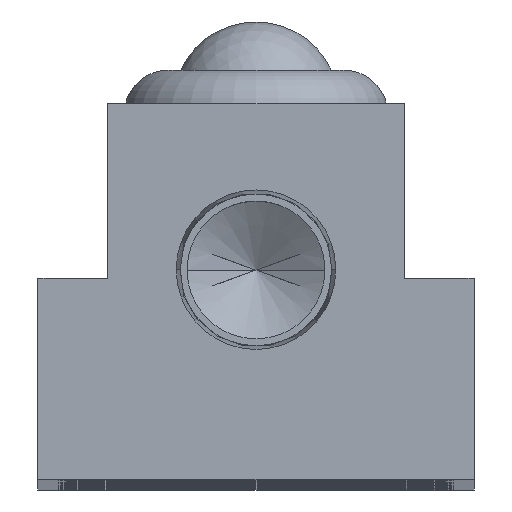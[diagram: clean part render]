
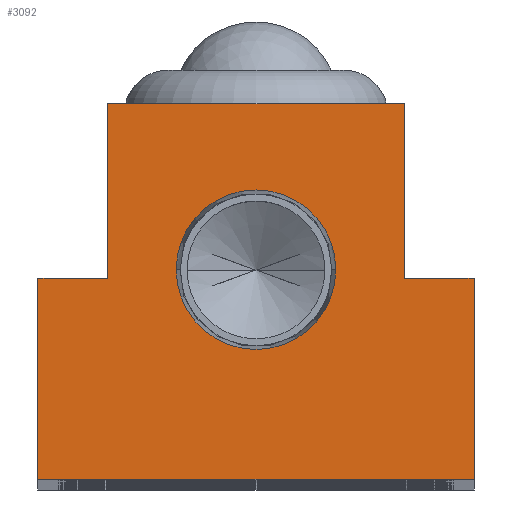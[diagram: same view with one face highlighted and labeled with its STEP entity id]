
A CAD part, top view. The second image highlights one B-rep face of the part: STEP entity #3092.
In plain terms, the highlighted planar face has unit normal (0, 0, 1).
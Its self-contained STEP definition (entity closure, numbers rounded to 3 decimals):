
#113 = CARTESIAN_POINT ( 'NONE',  ( -8.5, 21.5, 0. ) ) ;
#162 = EDGE_CURVE ( 'NONE', #9913, #428, #1157, .T. ) ;
#270 = ORIENTED_EDGE ( 'NONE', *, *, #1181, .T. ) ;
#352 = LINE ( 'NONE', #11174, #5004 ) ;
#428 = VERTEX_POINT ( 'NONE', #7573 ) ;
#656 = DIRECTION ( 'NONE',  ( 0., 1., 0. ) ) ;
#724 = ORIENTED_EDGE ( 'NONE', *, *, #4027, .T. ) ;
#726 = VECTOR ( 'NONE', #5031, 1000. ) ;
#921 = DIRECTION ( 'NONE',  ( 0., 0., 1. ) ) ;
#1157 = LINE ( 'NONE', #11801, #3349 ) ;
#1181 = EDGE_CURVE ( 'NONE', #10514, #4811, #8153, .T. ) ;
#1210 = CARTESIAN_POINT ( 'NONE',  ( -12.5, 0., 0. ) ) ;
#1223 = CARTESIAN_POINT ( 'NONE',  ( 8.5, 11.5, 0. ) ) ;
#1330 = ORIENTED_EDGE ( 'NONE', *, *, #11920, .T. ) ;
#1516 = VERTEX_POINT ( 'NONE', #10358 ) ;
#1525 = LINE ( 'NONE', #3584, #11735 ) ;
#1872 = CARTESIAN_POINT ( 'NONE',  ( 12.5, 0., 0. ) ) ;
#1910 = CIRCLE ( 'NONE', #5880, 4.574 ) ;
#1984 = ORIENTED_EDGE ( 'NONE', *, *, #5887, .T. ) ;
#2116 = FACE_BOUND ( 'NONE', #9134, .T. ) ;
#2319 = CARTESIAN_POINT ( 'NONE',  ( 0., 12., 0. ) ) ;
#2362 = LINE ( 'NONE', #6359, #9504 ) ;
#2383 = CARTESIAN_POINT ( 'NONE',  ( -4.574, 12., 0. ) ) ;
#2554 = VERTEX_POINT ( 'NONE', #11191 ) ;
#2670 = DIRECTION ( 'NONE',  ( 1., 0., 0. ) ) ;
#2698 = LINE ( 'NONE', #11828, #4897 ) ;
#2821 = DIRECTION ( 'NONE',  ( 0., 1., 0. ) ) ;
#2872 = VERTEX_POINT ( 'NONE', #2383 ) ;
#3092 = ADVANCED_FACE ( 'NONE', ( #2116, #6519 ), #9130, .T. ) ;
#3276 = DIRECTION ( 'NONE',  ( 1., 0., 0. ) ) ;
#3349 = VECTOR ( 'NONE', #656, 1000. ) ;
#3404 = EDGE_CURVE ( 'NONE', #9269, #8012, #2698, .T. ) ;
#3529 = ORIENTED_EDGE ( 'NONE', *, *, #3572, .T. ) ;
#3572 = EDGE_CURVE ( 'NONE', #4811, #1516, #5922, .T. ) ;
#3584 = CARTESIAN_POINT ( 'NONE',  ( 12.5, 11.5, 0. ) ) ;
#3859 = DIRECTION ( 'NONE',  ( 0., -1., 0. ) ) ;
#4027 = EDGE_CURVE ( 'NONE', #1516, #9913, #1525, .T. ) ;
#4811 = VERTEX_POINT ( 'NONE', #8996 ) ;
#4897 = VECTOR ( 'NONE', #5316, 1000. ) ;
#5004 = VECTOR ( 'NONE', #5641, 1000. ) ;
#5031 = DIRECTION ( 'NONE',  ( 1., 0., 0. ) ) ;
#5316 = DIRECTION ( 'NONE',  ( -1., 0., 0. ) ) ;
#5593 = EDGE_CURVE ( 'NONE', #428, #2554, #352, .T. ) ;
#5641 = DIRECTION ( 'NONE',  ( -1., 0., 0. ) ) ;
#5880 = AXIS2_PLACEMENT_3D ( 'NONE', #2319, #8838, #3276 ) ;
#5887 = EDGE_CURVE ( 'NONE', #8012, #10514, #2362, .T. ) ;
#5922 = LINE ( 'NONE', #1872, #10285 ) ;
#6321 = ORIENTED_EDGE ( 'NONE', *, *, #5593, .T. ) ;
#6359 = CARTESIAN_POINT ( 'NONE',  ( -12.5, 11.5, 0. ) ) ;
#6501 = CARTESIAN_POINT ( 'NONE',  ( 0., 12., 0. ) ) ;
#6519 = FACE_OUTER_BOUND ( 'NONE', #8033, .T. ) ;
#6800 = CARTESIAN_POINT ( 'NONE',  ( 4.574, 12., 0. ) ) ;
#6989 = ORIENTED_EDGE ( 'NONE', *, *, #7248, .F. ) ;
#7008 = ORIENTED_EDGE ( 'NONE', *, *, #9734, .F. ) ;
#7248 = EDGE_CURVE ( 'NONE', #10505, #2872, #1910, .T. ) ;
#7296 = CARTESIAN_POINT ( 'NONE',  ( -12.5, 11.5, 0. ) ) ;
#7305 = DIRECTION ( 'NONE',  ( -1., 0., 0. ) ) ;
#7310 = DIRECTION ( 'NONE',  ( 0., -1., 0. ) ) ;
#7429 = DIRECTION ( 'NONE',  ( 1., 0., 0. ) ) ;
#7528 = AXIS2_PLACEMENT_3D ( 'NONE', #11961, #8243, #2670 ) ;
#7573 = CARTESIAN_POINT ( 'NONE',  ( 8.5, 21.5, 0. ) ) ;
#8012 = VERTEX_POINT ( 'NONE', #7296 ) ;
#8033 = EDGE_LOOP ( 'NONE', ( #3529, #724, #10652, #6321, #1330, #9363, #1984, #270 ) ) ;
#8153 = LINE ( 'NONE', #8655, #726 ) ;
#8243 = DIRECTION ( 'NONE',  ( 0., 0., 1. ) ) ;
#8655 = CARTESIAN_POINT ( 'NONE',  ( -12.5, 0., 0. ) ) ;
#8838 = DIRECTION ( 'NONE',  ( 0., 0., 1. ) ) ;
#8996 = CARTESIAN_POINT ( 'NONE',  ( 12.5, 0., 0. ) ) ;
#9130 = PLANE ( 'NONE',  #7528 ) ;
#9134 = EDGE_LOOP ( 'NONE', ( #6989, #7008 ) ) ;
#9269 = VERTEX_POINT ( 'NONE', #9660 ) ;
#9363 = ORIENTED_EDGE ( 'NONE', *, *, #3404, .T. ) ;
#9504 = VECTOR ( 'NONE', #7310, 1000. ) ;
#9660 = CARTESIAN_POINT ( 'NONE',  ( -8.5, 11.5, 0. ) ) ;
#9734 = EDGE_CURVE ( 'NONE', #2872, #10505, #11927, .T. ) ;
#9894 = VECTOR ( 'NONE', #3859, 1000. ) ;
#9913 = VERTEX_POINT ( 'NONE', #1223 ) ;
#10190 = LINE ( 'NONE', #113, #9894 ) ;
#10285 = VECTOR ( 'NONE', #2821, 1000. ) ;
#10358 = CARTESIAN_POINT ( 'NONE',  ( 12.5, 11.5, 0. ) ) ;
#10505 = VERTEX_POINT ( 'NONE', #6800 ) ;
#10514 = VERTEX_POINT ( 'NONE', #1210 ) ;
#10652 = ORIENTED_EDGE ( 'NONE', *, *, #162, .T. ) ;
#10973 = AXIS2_PLACEMENT_3D ( 'NONE', #6501, #921, #7429 ) ;
#11174 = CARTESIAN_POINT ( 'NONE',  ( 8.5, 21.5, 0. ) ) ;
#11191 = CARTESIAN_POINT ( 'NONE',  ( -8.5, 21.5, 0. ) ) ;
#11735 = VECTOR ( 'NONE', #7305, 1000. ) ;
#11801 = CARTESIAN_POINT ( 'NONE',  ( 8.5, 11.5, 0. ) ) ;
#11828 = CARTESIAN_POINT ( 'NONE',  ( -8.5, 11.5, 0. ) ) ;
#11920 = EDGE_CURVE ( 'NONE', #2554, #9269, #10190, .T. ) ;
#11927 = CIRCLE ( 'NONE', #10973, 4.574 ) ;
#11961 = CARTESIAN_POINT ( 'NONE',  ( 0., 0., 0. ) ) ;
